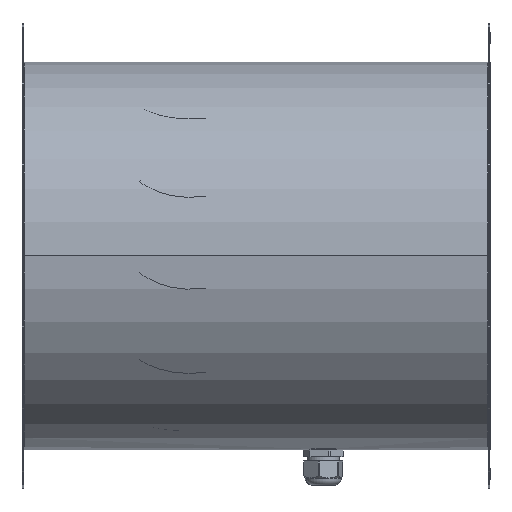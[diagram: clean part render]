
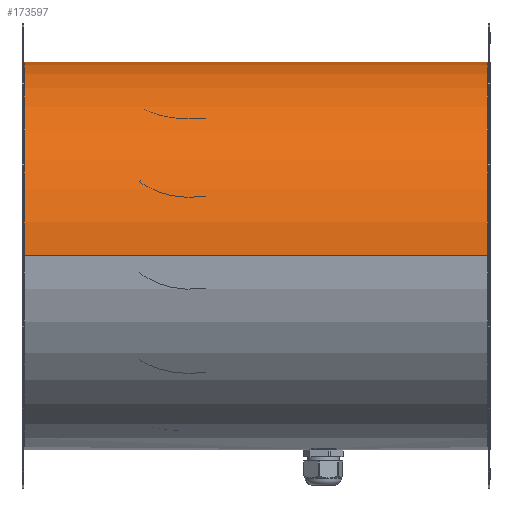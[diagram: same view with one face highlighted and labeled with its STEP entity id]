
A CAD part, top view. The second image highlights one B-rep face of the part: STEP entity #173597.
In plain terms, the highlighted cylindrical face has radius 158.75 mm (diameter 317.5 mm), a partial arc.
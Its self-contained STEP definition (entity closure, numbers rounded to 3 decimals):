
#2039 = EDGE_CURVE ( 'NONE', #58076, #128187, #139677, .T. ) ;
#2208 = CARTESIAN_POINT ( 'NONE',  ( 299.125, 0., 158.75 ) ) ;
#2989 = CARTESIAN_POINT ( 'NONE',  ( -79.5, 0., 0. ) ) ;
#5652 = CIRCLE ( 'NONE', #40337, 158.75 ) ;
#8433 = CARTESIAN_POINT ( 'NONE',  ( -79.5, 0., -158.75 ) ) ;
#8758 = EDGE_CURVE ( 'NONE', #128187, #30106, #77942, .T. ) ;
#9447 = CARTESIAN_POINT ( 'NONE',  ( -79.5, 3.024, -158.721 ) ) ;
#13939 = CARTESIAN_POINT ( 'NONE',  ( -79.5, 0., 158.75 ) ) ;
#14318 = CARTESIAN_POINT ( 'NONE',  ( 299.125, 0., 0. ) ) ;
#16695 = CARTESIAN_POINT ( 'NONE',  ( 298.5, 3.024, -158.721 ) ) ;
#22539 = AXIS2_PLACEMENT_3D ( 'NONE', #153578, #45724, #171671 ) ;
#23051 = EDGE_CURVE ( 'NONE', #204551, #178812, #63301, .T. ) ;
#24772 = EDGE_CURVE ( 'NONE', #30106, #204551, #29400, .T. ) ;
#26432 = VERTEX_POINT ( 'NONE', #73043 ) ;
#27100 = VERTEX_POINT ( 'NONE', #2208 ) ;
#27367 = VERTEX_POINT ( 'NONE', #164349 ) ;
#27788 = CARTESIAN_POINT ( 'NONE',  ( -80.125, 0., 0. ) ) ;
#29400 = CIRCLE ( 'NONE', #115976, 158.75 ) ;
#30106 = VERTEX_POINT ( 'NONE', #128493 ) ;
#31576 = VERTEX_POINT ( 'NONE', #43400 ) ;
#31688 = EDGE_CURVE ( 'NONE', #26432, #112563, #209456, .T. ) ;
#32030 = DIRECTION ( 'NONE',  ( 1., 0., 0. ) ) ;
#32415 = DIRECTION ( 'NONE',  ( 0., 0., 1. ) ) ;
#32768 = AXIS2_PLACEMENT_3D ( 'NONE', #2989, #147015, #74601 ) ;
#33432 = EDGE_CURVE ( 'NONE', #112563, #178812, #79762, .T. ) ;
#37871 = ORIENTED_EDGE ( 'NONE', *, *, #82223, .F. ) ;
#39154 = ORIENTED_EDGE ( 'NONE', *, *, #23051, .F. ) ;
#39337 = CARTESIAN_POINT ( 'NONE',  ( -79.5, 0., 0. ) ) ;
#40337 = AXIS2_PLACEMENT_3D ( 'NONE', #27788, #153743, #45886 ) ;
#43400 = CARTESIAN_POINT ( 'NONE',  ( 299.125, 0., -158.75 ) ) ;
#43900 = VECTOR ( 'NONE', #206009, 1000. ) ;
#45724 = DIRECTION ( 'NONE',  ( 1., 0., 0. ) ) ;
#45886 = DIRECTION ( 'NONE',  ( 0., 0., 1. ) ) ;
#47261 = ORIENTED_EDGE ( 'NONE', *, *, #175460, .T. ) ;
#50606 = EDGE_LOOP ( 'NONE', ( #174399, #120084, #47261, #37871, #147220, #87506, #95165, #39154, #82836, #199938 ) ) ;
#53547 = LINE ( 'NONE', #13939, #191526 ) ;
#57433 = DIRECTION ( 'NONE',  ( 0., 0., 1. ) ) ;
#58076 = VERTEX_POINT ( 'NONE', #171645 ) ;
#62976 = DIRECTION ( 'NONE',  ( 1., 0., 0. ) ) ;
#63301 = LINE ( 'NONE', #9447, #105539 ) ;
#68423 = CARTESIAN_POINT ( 'NONE',  ( -79.5, 0., -158.75 ) ) ;
#69169 = CARTESIAN_POINT ( 'NONE',  ( -79.5, 0., 0. ) ) ;
#73043 = CARTESIAN_POINT ( 'NONE',  ( 298.5, 0., -158.75 ) ) ;
#74601 = DIRECTION ( 'NONE',  ( 0., 0., 1. ) ) ;
#77942 = CIRCLE ( 'NONE', #85652, 158.75 ) ;
#79762 = CIRCLE ( 'NONE', #119069, 158.75 ) ;
#82223 = EDGE_CURVE ( 'NONE', #31576, #27100, #175588, .T. ) ;
#82836 = ORIENTED_EDGE ( 'NONE', *, *, #24772, .F. ) ;
#84313 = CARTESIAN_POINT ( 'NONE',  ( 298.5, 0., 0. ) ) ;
#85652 = AXIS2_PLACEMENT_3D ( 'NONE', #39337, #165283, #57433 ) ;
#86525 = DIRECTION ( 'NONE',  ( 1., 0., 0. ) ) ;
#87262 = DIRECTION ( 'NONE',  ( 0., 0., 1. ) ) ;
#87506 = ORIENTED_EDGE ( 'NONE', *, *, #31688, .T. ) ;
#95165 = ORIENTED_EDGE ( 'NONE', *, *, #33432, .T. ) ;
#102413 = DIRECTION ( 'NONE',  ( 0., 0., 1. ) ) ;
#105539 = VECTOR ( 'NONE', #62976, 1000. ) ;
#112563 = VERTEX_POINT ( 'NONE', #196373 ) ;
#115976 = AXIS2_PLACEMENT_3D ( 'NONE', #69169, #195105, #87262 ) ;
#119069 = AXIS2_PLACEMENT_3D ( 'NONE', #84313, #210300, #102413 ) ;
#120084 = ORIENTED_EDGE ( 'NONE', *, *, #177182, .T. ) ;
#122827 = VECTOR ( 'NONE', #86525, 1000. ) ;
#128187 = VERTEX_POINT ( 'NONE', #134218 ) ;
#128493 = CARTESIAN_POINT ( 'NONE',  ( -79.5, 3., -158.722 ) ) ;
#129988 = CARTESIAN_POINT ( 'NONE',  ( -79.5, 3.024, -158.721 ) ) ;
#134218 = CARTESIAN_POINT ( 'NONE',  ( -79.5, 0., -158.75 ) ) ;
#139677 = LINE ( 'NONE', #8433, #43900 ) ;
#140250 = DIRECTION ( 'NONE',  ( 1., 0., 0. ) ) ;
#147015 = DIRECTION ( 'NONE',  ( 1., 0., 0. ) ) ;
#147220 = ORIENTED_EDGE ( 'NONE', *, *, #232396, .F. ) ;
#153578 = CARTESIAN_POINT ( 'NONE',  ( 298.5, 0., 0. ) ) ;
#153743 = DIRECTION ( 'NONE',  ( 1., 0., 0. ) ) ;
#164349 = CARTESIAN_POINT ( 'NONE',  ( -80.125, 0., 158.75 ) ) ;
#165283 = DIRECTION ( 'NONE',  ( 1., 0., 0. ) ) ;
#171645 = CARTESIAN_POINT ( 'NONE',  ( -80.125, 0., -158.75 ) ) ;
#171671 = DIRECTION ( 'NONE',  ( 0., 0., 1. ) ) ;
#173597 = ADVANCED_FACE ( 'NONE', ( #225441 ), #219799, .T. ) ;
#174399 = ORIENTED_EDGE ( 'NONE', *, *, #2039, .F. ) ;
#175460 = EDGE_CURVE ( 'NONE', #27367, #27100, #53547, .T. ) ;
#175588 = CIRCLE ( 'NONE', #229787, 158.75 ) ;
#176363 = LINE ( 'NONE', #68423, #122827 ) ;
#177182 = EDGE_CURVE ( 'NONE', #58076, #27367, #5652, .T. ) ;
#178812 = VERTEX_POINT ( 'NONE', #16695 ) ;
#191526 = VECTOR ( 'NONE', #32030, 1000. ) ;
#195105 = DIRECTION ( 'NONE',  ( 1., 0., 0. ) ) ;
#196373 = CARTESIAN_POINT ( 'NONE',  ( 298.5, 3., -158.722 ) ) ;
#199938 = ORIENTED_EDGE ( 'NONE', *, *, #8758, .F. ) ;
#204551 = VERTEX_POINT ( 'NONE', #129988 ) ;
#206009 = DIRECTION ( 'NONE',  ( 1., 0., 0. ) ) ;
#209456 = CIRCLE ( 'NONE', #22539, 158.75 ) ;
#210300 = DIRECTION ( 'NONE',  ( 1., 0., 0. ) ) ;
#219799 = CYLINDRICAL_SURFACE ( 'NONE', #32768, 158.75 ) ;
#225441 = FACE_OUTER_BOUND ( 'NONE', #50606, .T. ) ;
#229787 = AXIS2_PLACEMENT_3D ( 'NONE', #14318, #140250, #32415 ) ;
#232396 = EDGE_CURVE ( 'NONE', #26432, #31576, #176363, .T. ) ;
